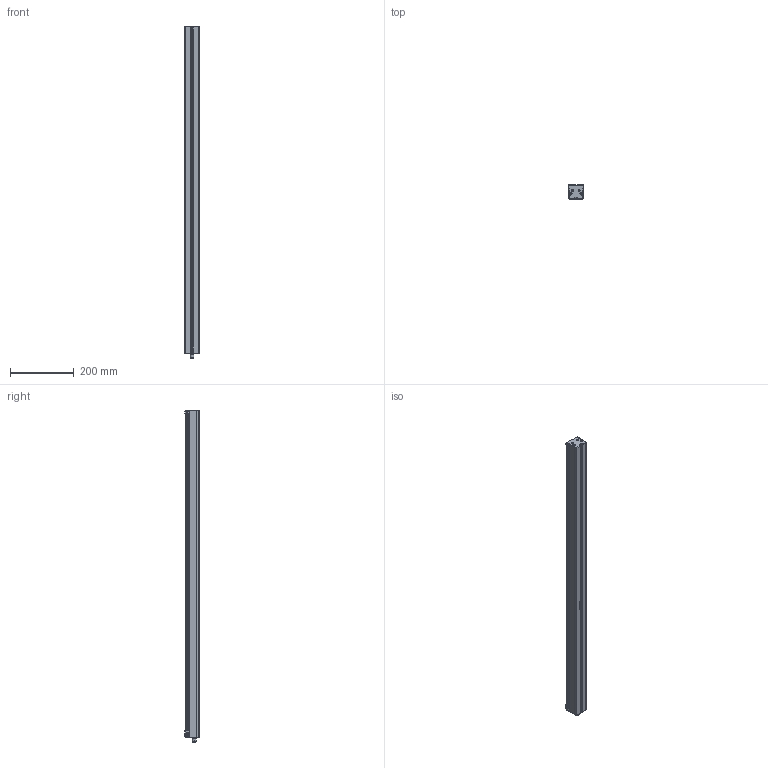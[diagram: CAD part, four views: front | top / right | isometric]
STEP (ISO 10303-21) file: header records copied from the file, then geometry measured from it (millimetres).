
FILE_DESCRIPTION (( 'STEP AP214' ), '1' );
FILE_NAME ('EBAR-EC-1000-xxx-xx_CLIENT.STEP', '2026-06-04T10:51:37', ( '' ), ( '' ), 'SwSTEP 2.0', 'SolidWorks 2025', '' );
FILE_SCHEMA (( 'AUTOMOTIVE_DESIGN' ));
Length unit declared in the file: millimetre
Products named in the file (3): 1-X2014-01-3-A; EBAR-EC-xxx-xxx-xx_CLIENT_1000; EBAR-EC-1000-xxx-xx_CLIENT
Assembly tree (7 placements, depth 2):
  EBAR-EC-1000-xxx-xx_CLIENT
    EBAR-EC-xxx-xxx-xx_CLIENT_1000
    1-X2014-01-3-A  x6
Bounding box: 47.63 x 45 x 1045.06 mm (x, y, z)
Volume: 1824831.2 mm3; surface area: 221424.9 mm2
Topology: 7 solids, 7 shells, 839 faces, 2137 edges, 1372 vertices
Faces by surface type: plane 371, cylinder 247, bspline 131, torus 62, cone 24, sphere 4
Entity records: 26500 total; most frequent: CARTESIAN_POINT 9557, ORIENTED_EDGE 3600, DIRECTION 3091, EDGE_CURVE 1800, VERTEX_POINT 1163, AXIS2_PLACEMENT_3D 1069, LINE 953, VECTOR 953
